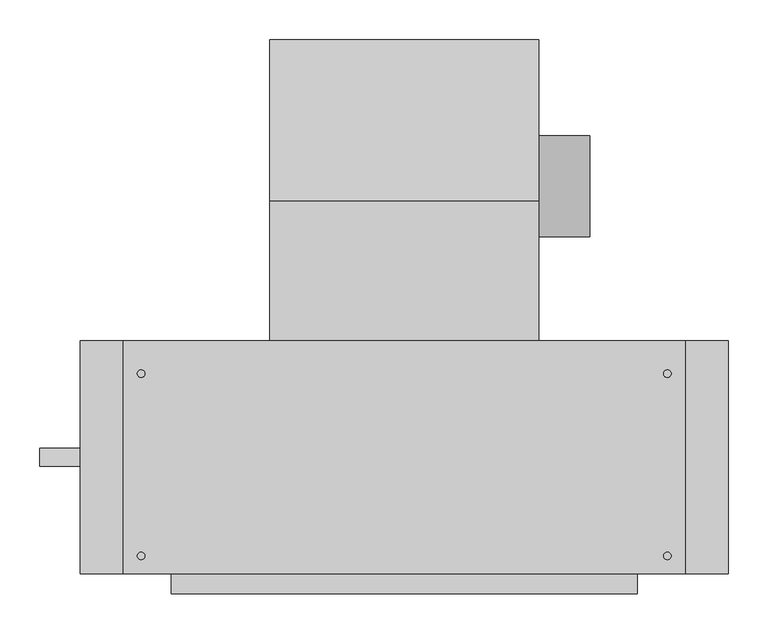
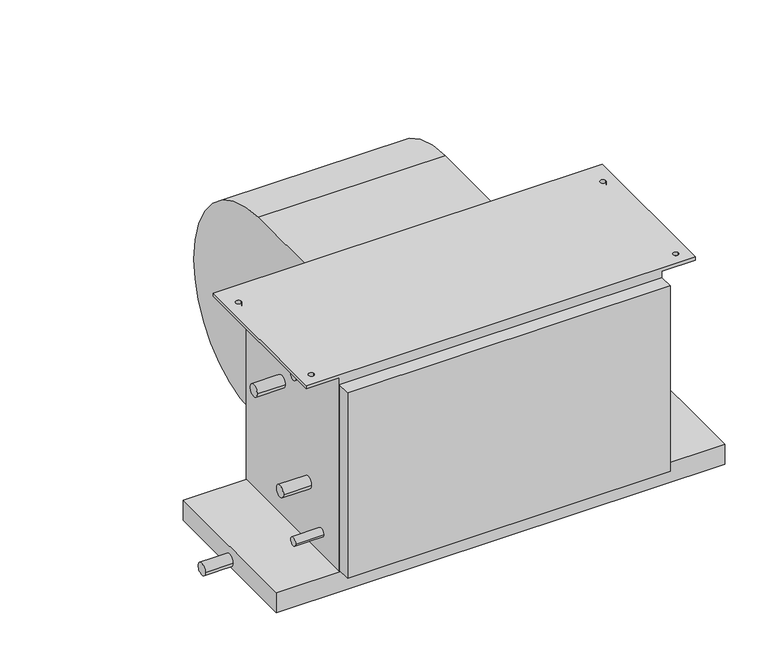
"""IFC4 building model written with IfcOpenShell, lengths in millimetres: proxy geometry, Concealed_High_Capacity_Horizontal_Fan_Coil_Unit_-_42DAA_-_CARRIER_-_4-Pipe_LH_2022 : Size 10 - 277v/60Hz/1Ph - 6/2 Coil."""

from ifc_helpers import new_model, si_unit, point, frame, frame_2d, origin, place, context, project, spatial, polyline, circle_curve, trimmed, segment, composite_curve, outline, extrude, source, transform, mapped, element, save
from ifc_brep_helpers import plane_surface, cylinder_surface, revolved_surface, advanced_brep


def mechanical_equipment_5432daf3(model_context):
    return source(origin(), model_context, "Body", "SolidModel", [
        extrude(outline(composite_curve([segment(trimmed(circle_curve(frame_2d((117.8757598, -213.2397468)), 63.5), [point((181.3757598, -213.2397468))], [point((54.3757598, -213.2397468))], False, "CARTESIAN"), True, "CONTINUOUS"), segment(trimmed(circle_curve(frame_2d((117.8757598, -213.2397468)), 63.5), [point((54.3757598, -213.2397468))], [point((181.3757598, -213.2397468))], False, "CARTESIAN"), True, "CONTINUOUS")], self_intersect=False)), frame((448.437, 0.0, 0.0), z_axis=(1.0, 0.0, 0.0), x_axis=(0.0, 1.0, 0.0)), (0.0, 0.0, 1.0), 63.5),
        advanced_brep(
        [(110.363, 301.3905957, -228.379602), (110.363, 120.4976, -409.99664), (110.363, -35.0266, -283.45638), (110.363, -76.2, -283.45638), (110.363, -76.2, -25.4), (110.363, 98.8830093, -25.4), (448.437, 301.3905957, -228.379602), (448.437, 98.8830093, -25.4), (448.437, -76.2, -25.4), (448.437, -76.2, -283.45638), (448.437, -35.0266, -283.45638), (448.437, 120.497599, -409.9957839)],
        [
            (0, 1, circle_curve(frame((110.363, 120.31726, -228.92258), z_axis=(-1.0, 0.0, 0.0), x_axis=(0.0, -1.0, 0.0)), 181.0741498)),
            (1, 2, circle_curve(frame((110.363, 120.31726, -251.37364), z_axis=(-1.0, 0.0, 0.0), x_axis=(0.0, -1.0, 0.0)), 158.6222464)),
            (2, 3),
            (3, 4),
            (4, 5),
            (5, 0, circle_curve(frame((110.363, 97.8662, -228.92258), z_axis=(-1.0, 0.0, 0.0), x_axis=(0.0, -1.0, 0.0)), 203.52512)),
            (6, 7, circle_curve(frame((448.437, 97.8662, -228.92258), z_axis=(1.0, 0.0, 0.0), x_axis=(0.0, -1.0, 0.0)), 203.52512)),
            (7, 8),
            (8, 9),
            (9, 10),
            (10, 11, circle_curve(frame((448.437, 120.31726, -251.37364), z_axis=(1.0, 0.0, 0.0), x_axis=(0.0, -1.0, 0.0)), 158.6222464)),
            (11, 6, circle_curve(frame((448.437, 120.31726, -228.92258), z_axis=(1.0, 0.0, 0.0), x_axis=(0.0, -1.0, 0.0)), 181.0741498)),
            (0, 6),
            (11, 1),
            (10, 2),
            (9, 3),
            (8, 4),
            (7, 5),
        ],
        [
            plane_surface(frame((110.363, -60.7568898, -228.92258), z_axis=(-1.0, 0.0, 0.0), x_axis=(0.0, 0.0, 1.0))),
            plane_surface(frame((448.437, -60.7568898, -228.92258), z_axis=(1.0, 0.0, 0.0), x_axis=(0.0, 0.0, -1.0))),
            cylinder_surface(frame((448.437, 120.31726, -228.92258), z_axis=(-1.0, 0.0, 0.0), x_axis=(0.0, -1.0, 0.0)), 181.0741498),
            cylinder_surface(frame((448.437, 120.31726, -251.37364), z_axis=(-1.0, 0.0, 0.0), x_axis=(0.0, -1.0, 0.0)), 158.6222464),
            plane_surface(frame((110.363, -35.0266, -283.45638), z_axis=(0.0, 0.0, -1.0), x_axis=(1.0, 0.0, 0.0))),
            plane_surface(frame((110.363, -76.2, -283.45638), z_axis=(0.0, -1.0, 0.0), x_axis=(1.0, 0.0, 0.0))),
            plane_surface(frame((110.363, -76.2, -25.4), z_axis=(0.0, 0.0, 1.0), x_axis=(1.0, 0.0, 0.0))),
            cylinder_surface(frame((448.437, 97.8662, -228.92258), z_axis=(-1.0, 0.0, 0.0), x_axis=(0.0, -1.0, 0.0)), 203.52512),
        ],
        [
            (0, [[1, 2, 3, 4, 5, 6]]),
            (1, [[7, 8, 9, 10, 11, 12]]),
            (2, [[-1, 13, -12, 14]]),
            (3, [[-2, -14, -11, 15]]),
            (4, [[-3, -15, -10, 16]]),
            (5, [[-4, -16, -9, 17]]),
            (6, [[-5, -17, -8, 18]]),
            (7, [[-6, -18, -7, -13]]),
        ],
    ),
        extrude(outline(polyline([(685.8, -76.2), (685.8, -368.3), (-127.0, -368.3), (-127.0, -76.2), (685.8, -76.2)])), frame((0.0, 0.0, -415.925), z_axis=(0.0, 0.0, 1.0), x_axis=(1.0, 0.0, 0.0)), (0.0, 0.0, 1.0), 38.1),
        extrude(outline(polyline([(571.5, -393.7), (-12.7, -393.7), (-12.7, -368.3), (571.5, -368.3), (571.5, -393.7)])), frame((0.0, 0.0, -374.65), z_axis=(0.0, 0.0, 1.0), x_axis=(1.0, 0.0, 0.0)), (0.0, 0.0, 1.0), 355.6),
        extrude(outline(composite_curve([segment(trimmed(circle_curve(frame_2d((-222.25, -403.225)), 11.1125), [point((-233.3625, -403.225))], [point((-211.1375, -403.225))], False, "CARTESIAN"), True, "CONTINUOUS"), segment(trimmed(circle_curve(frame_2d((-222.25, -403.225)), 11.1125), [point((-211.1375, -403.225))], [point((-233.3625, -403.225))], False, "CARTESIAN"), True, "CONTINUOUS")], self_intersect=False)), frame((-177.8, 0.0, 0.0), z_axis=(1.0, 0.0, 0.0), x_axis=(0.0, 1.0, 0.0)), (0.0, 0.0, 1.0), 50.8),
        extrude(outline(composite_curve([segment(trimmed(circle_curve(frame_2d((-187.325, -122.2375)), 11.1125), [point((-198.4375, -122.2375))], [point((-176.2125, -122.2375))], False, "CARTESIAN"), True, "CONTINUOUS"), segment(trimmed(circle_curve(frame_2d((-187.325, -122.2375)), 11.1125), [point((-176.2125, -122.2375))], [point((-198.4375, -122.2375))], False, "CARTESIAN"), True, "CONTINUOUS")], self_intersect=False)), frame((-63.5, 0.0, 0.0), z_axis=(1.0, 0.0, 0.0), x_axis=(0.0, 1.0, 0.0)), (0.0, 0.0, 1.0), 50.8),
        extrude(outline(composite_curve([segment(trimmed(circle_curve(frame_2d((-269.875, -265.1125)), 11.1125), [point((-280.9875, -265.1125))], [point((-258.7625, -265.1125))], False, "CARTESIAN"), True, "CONTINUOUS"), segment(trimmed(circle_curve(frame_2d((-269.875, -265.1125)), 11.1125), [point((-258.7625, -265.1125))], [point((-280.9875, -265.1125))], False, "CARTESIAN"), True, "CONTINUOUS")], self_intersect=False)), frame((-63.5, 0.0, 0.0), z_axis=(1.0, 0.0, 0.0), x_axis=(0.0, 1.0, 0.0)), (0.0, 0.0, 1.0), 50.8),
        extrude(outline(composite_curve([segment(trimmed(circle_curve(frame_2d((-311.15, -19.05)), 7.9375), [point((-319.0875, -19.05))], [point((-303.2125, -19.05))], False, "CARTESIAN"), True, "CONTINUOUS"), segment(trimmed(circle_curve(frame_2d((-311.15, -19.05)), 7.9375), [point((-303.2125, -19.05))], [point((-319.0875, -19.05))], False, "CARTESIAN"), True, "CONTINUOUS")], self_intersect=False)), frame((-63.5, 0.0, 0.0), z_axis=(1.0, 0.0, 0.0), x_axis=(0.0, 1.0, 0.0)), (0.0, 0.0, 1.0), 50.8),
        extrude(outline(composite_curve([segment(trimmed(circle_curve(frame_2d((-311.15, -336.55)), 7.9375), [point((-319.0875, -336.55))], [point((-303.2125, -336.55))], False, "CARTESIAN"), True, "CONTINUOUS"), segment(trimmed(circle_curve(frame_2d((-311.15, -336.55)), 7.9375), [point((-303.2125, -336.55))], [point((-319.0875, -336.55))], False, "CARTESIAN"), True, "CONTINUOUS")], self_intersect=False)), frame((-63.5, 0.0, 0.0), z_axis=(1.0, 0.0, 0.0), x_axis=(0.0, 1.0, 0.0)), (0.0, 0.0, 1.0), 50.8),
        advanced_brep(
        [(571.5, -76.2, -377.825), (571.5, -368.3, -377.825), (-12.7, -368.3, -377.825), (-12.7, -76.2, -377.825), (-12.7, -368.3, -6.35), (-12.7, -76.2, -6.35), (571.5, -76.2, -6.35), (571.5, -368.3, -6.35), (-73.025, -76.2, 0.0), (-73.025, -368.3, 0.0), (631.825, -368.3, 0.0), (631.825, -76.2, 0.0), (-46.0375, -117.475, 0.0), (-55.5625, -117.475, 0.0), (-46.0375, -346.075, 0.0), (-55.5625, -346.075, 0.0), (614.3625, -117.475, 0.0), (604.8375, -117.475, 0.0), (614.3625, -346.075, 0.0), (604.8375, -346.075, 0.0), (-73.025, -76.2, -6.35), (-73.025, -368.3, -6.35), (-55.5625, -117.475, -6.35), (-46.0375, -117.475, -6.35), (-55.5625, -346.075, -6.35), (-46.0375, -346.075, -6.35), (631.825, -76.2, -6.35), (631.825, -368.3, -6.35), (604.8375, -117.475, -6.35), (614.3625, -117.475, -6.35), (604.8375, -346.075, -6.35), (614.3625, -346.075, -6.35)],
        [
            (0, 1),
            (1, 2),
            (2, 3),
            (3, 0),
            (2, 4),
            (4, 5),
            (5, 3),
            (0, 6),
            (6, 7),
            (7, 1),
            (8, 9),
            (9, 10),
            (10, 11),
            (11, 8),
            (12, 13, circle_curve(frame((-50.8, -117.475, 0.0), z_axis=(0.0, 0.0, -1.0), x_axis=(1.0, 0.0, 0.0)), 4.7625)),
            (13, 12, circle_curve(frame((-50.8, -117.475, 0.0), z_axis=(0.0, 0.0, -1.0), x_axis=(1.0, 0.0, 0.0)), 4.7625)),
            (14, 15, circle_curve(frame((-50.8, -346.075, 0.0), z_axis=(0.0, 0.0, -1.0), x_axis=(1.0, 0.0, 0.0)), 4.7625)),
            (15, 14, circle_curve(frame((-50.8, -346.075, 0.0), z_axis=(0.0, 0.0, -1.0), x_axis=(1.0, 0.0, 0.0)), 4.7625)),
            (16, 17, circle_curve(frame((609.6, -117.475, 0.0), z_axis=(0.0, 0.0, -1.0), x_axis=(1.0, 0.0, 0.0)), 4.7625)),
            (17, 16, circle_curve(frame((609.6, -117.475, 0.0), z_axis=(0.0, 0.0, -1.0), x_axis=(1.0, 0.0, 0.0)), 4.7625)),
            (18, 19, circle_curve(frame((609.6, -346.075, 0.0), z_axis=(0.0, 0.0, -1.0), x_axis=(1.0, 0.0, 0.0)), 4.7625)),
            (19, 18, circle_curve(frame((609.6, -346.075, 0.0), z_axis=(0.0, 0.0, -1.0), x_axis=(1.0, 0.0, 0.0)), 4.7625)),
            (20, 5),
            (4, 21),
            (21, 20),
            (22, 23, circle_curve(frame((-50.8, -117.475, -6.35), z_axis=(0.0, 0.0, 1.0), x_axis=(1.0, 0.0, 0.0)), 4.7625)),
            (23, 22, circle_curve(frame((-50.8, -117.475, -6.35), z_axis=(0.0, 0.0, 1.0), x_axis=(1.0, 0.0, 0.0)), 4.7625)),
            (24, 25, circle_curve(frame((-50.8, -346.075, -6.35), z_axis=(0.0, 0.0, 1.0), x_axis=(1.0, 0.0, 0.0)), 4.7625)),
            (25, 24, circle_curve(frame((-50.8, -346.075, -6.35), z_axis=(0.0, 0.0, 1.0), x_axis=(1.0, 0.0, 0.0)), 4.7625)),
            (26, 27),
            (27, 7),
            (6, 26),
            (28, 29, circle_curve(frame((609.6, -117.475, -6.35), z_axis=(0.0, 0.0, 1.0), x_axis=(1.0, 0.0, 0.0)), 4.7625)),
            (29, 28, circle_curve(frame((609.6, -117.475, -6.35), z_axis=(0.0, 0.0, 1.0), x_axis=(1.0, 0.0, 0.0)), 4.7625)),
            (30, 31, circle_curve(frame((609.6, -346.075, -6.35), z_axis=(0.0, 0.0, 1.0), x_axis=(1.0, 0.0, 0.0)), 4.7625)),
            (31, 30, circle_curve(frame((609.6, -346.075, -6.35), z_axis=(0.0, 0.0, 1.0), x_axis=(1.0, 0.0, 0.0)), 4.7625)),
            (8, 20),
            (21, 9),
            (27, 10),
            (11, 26),
            (12, 23),
            (22, 13),
            (14, 25),
            (24, 15),
            (16, 29),
            (28, 17),
            (18, 31),
            (30, 19),
        ],
        [
            plane_surface(frame((-12.7, -76.2, -377.825), z_axis=(0.0, 0.0, -1.0), x_axis=(1.0, 0.0, 0.0))),
            plane_surface(frame((-12.7, -76.2, 0.0), z_axis=(-1.0, 0.0, 0.0), x_axis=(0.0, 0.0, -1.0))),
            plane_surface(frame((571.5, -368.3, 0.0), z_axis=(1.0, 0.0, 0.0), x_axis=(0.0, 0.0, -1.0))),
            plane_surface(frame((-73.025, -76.2, 0.0), z_axis=(0.0, 0.0, 1.0), x_axis=(0.0, -1.0, 0.0))),
            plane_surface(frame((-73.025, -76.2, -6.35), z_axis=(0.0, 0.0, -1.0), x_axis=(0.0, 1.0, 0.0))),
            plane_surface(frame((-73.025, -76.2, 0.0), z_axis=(-1.0, 0.0, 0.0), x_axis=(0.0, 0.0, -1.0))),
            plane_surface(frame((-73.025, -368.3, 0.0), z_axis=(0.0, -1.0, 0.0), x_axis=(0.0, 0.0, -1.0))),
            plane_surface(frame((-12.7, -76.2, 0.0), z_axis=(0.0, 1.0, 0.0), x_axis=(0.0, 0.0, -1.0))),
            plane_surface(frame((631.825, -368.3, 0.0), z_axis=(1.0, 0.0, 0.0), x_axis=(0.0, 0.0, -1.0))),
            revolved_surface(polyline([(-46.037499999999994, -117.475, 0.0), (-46.037499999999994, -117.475, -6.35)]), (-50.8, -117.475, -6.35), (0.0, 0.0, 1.0)),
            revolved_surface(polyline([(-46.037499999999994, -346.075, 0.0), (-46.037499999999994, -346.075, -6.35)]), (-50.8, -346.075, 0.0), (0.0, 0.0, 1.0)),
            revolved_surface(polyline([(614.3625000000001, -117.475, 0.0), (614.3625000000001, -117.475, -6.35)]), (609.6, -117.475, 0.0), (0.0, 0.0, 1.0)),
            revolved_surface(polyline([(614.3625000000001, -346.075, 0.0), (614.3625000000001, -346.075, -6.35)]), (609.6, -346.075, 0.0), (0.0, 0.0, 1.0)),
        ],
        [
            (0, [[1, 2, 3, 4]]),
            (1, [[-3, 5, 6, 7]]),
            (2, [[-1, 8, 9, 10]]),
            (3, [[11, 12, 13, 14], [15, 16], [17, 18], [19, 20], [21, 22]]),
            (4, [[23, -6, 24, 25], [26, 27], [28, 29]]),
            (4, [[30, 31, -9, 32], [33, 34], [35, 36]]),
            (5, [[-11, 37, -25, 38]]),
            (6, [[-12, -38, -24, -5, -2, -10, -31, 39]]),
            (7, [[-14, 40, -32, -8, -4, -7, -23, -37]]),
            (8, [[-13, -39, -30, -40]]),
            (9, [[41, -26, 42, -15]]),
            (9, [[-41, -16, -42, -27]]),
            (10, [[43, -28, 44, -17]]),
            (10, [[-43, -18, -44, -29]]),
            (11, [[45, -33, 46, -19]]),
            (11, [[-45, -20, -46, -34]]),
            (12, [[47, -35, 48, -21]]),
            (12, [[-47, -22, -48, -36]]),
        ],
    ),
    ])


if __name__ == "__main__":
    model = new_model("IFC4")
    model_context = context("Model", 3, world=origin())
    ifc_project = project(units=[si_unit("LENGTHUNIT", "METRE", prefix="MILLI")], contexts=[model_context])
    site = spatial("IfcSite", under=ifc_project)
    building = spatial("IfcBuilding", under=site)
    placement = place(None, origin())
    mechanical_equipment_shape = mechanical_equipment_5432daf3(model_context)
    element("IfcBuildingElementProxy", 1, Name="Concealed_High_Capacity_Horizontal_Fan_Coil_Unit_-_42DAA_-_CARRIER_-_4-Pipe_LH_2022 : Size 10 - 277v/60Hz/1Ph - 6/2 Coil", ObjectType="Concealed_High_Capacity_Horizontal_Fan_Coil_Unit_-_42DAA_-_CARRIER_-_4-Pipe_LH_2022 : Size 10 - 277v/60Hz/1Ph - 6/2 Coil", at=placement, inside=building, context=model_context, shape_type="MappedRepresentation", body=[
        mapped(mechanical_equipment_shape, transform((0.0, 0.0, 0.0), x_axis=(1.0, 0.0, 0.0), y_axis=(0.0, 1.0, 0.0), z_axis=(0.0, 0.0, 1.0))),
    ])
    save(model, "model.ifc")
